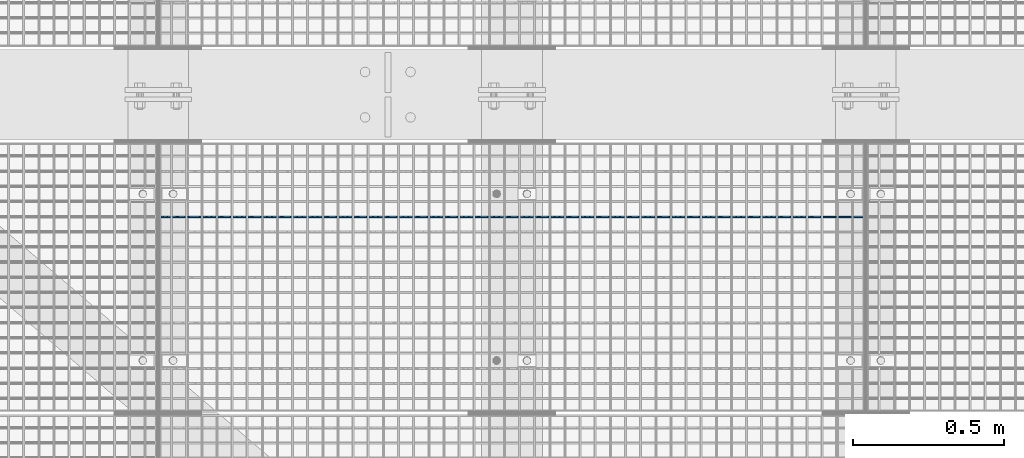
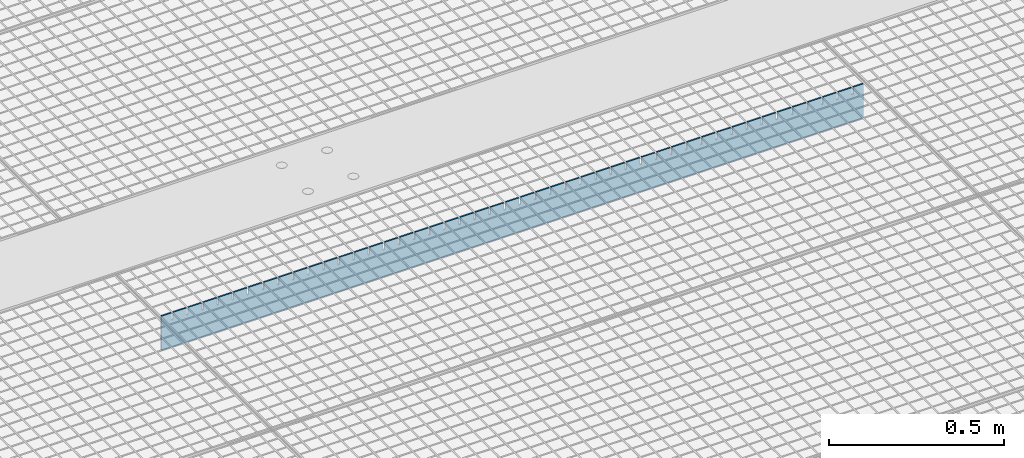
# One storey, part 239 of 1530: 1 beam.
"""IFC2X3 building model written with IfcOpenShell, lengths in millimetres."""

from ifc_helpers import new_model, si_unit, frame, origin_with_axes, place, context, subcontext, project, spatial, faceted_brep, material, type_object, element, save


model = new_model("IFC2X3")

# Units and contexts
model_context = context("Model", 3, precision=1e-05, world=origin_with_axes())
body_context = subcontext(model_context, "Body", "Model", "MODEL_VIEW")
ifc_project = project(units=[si_unit("LENGTHUNIT", "METRE", prefix="MILLI"), si_unit("AREAUNIT", "SQUARE_METRE"), si_unit("VOLUMEUNIT", "CUBIC_METRE"), si_unit("MASSUNIT", "GRAM", prefix="KILO"), si_unit("TIMEUNIT", "SECOND"), si_unit("PLANEANGLEUNIT", "RADIAN"), si_unit("SOLIDANGLEUNIT", "STERADIAN"), si_unit("THERMODYNAMICTEMPERATUREUNIT", "DEGREE_CELSIUS"), si_unit("LUMINOUSINTENSITYUNIT", "LUMEN")], contexts=[model_context])

# Site, building, storey
site_placement = place(None, origin_with_axes())
site = spatial("IfcSite", under=ifc_project, at=site_placement, Name="Brattvåg", CompositionType="ELEMENT")
building_placement = place(site_placement, origin_with_axes())
building = spatial("IfcBuilding", under=site, at=building_placement, Name="Undefined", CompositionType="ELEMENT")
storey_placement = place(building_placement, origin_with_axes())
storey = spatial("IfcBuildingStorey", under=building, at=storey_placement, Name="Undefined", CompositionType="ELEMENT", Elevation=0.0)

# Beam
ifc_material = material(Name="STEEL/S355J2")
beam_type = type_object("IfcBeamType", Name="120*5", PredefinedType="NOTDEFINED")
beam_placement = place(storey_placement, frame((7570.01317977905, 2596.9952545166, -59.9998626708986), z_axis=(0.0, 0.0, 1.0), x_axis=(-1.0, 1.99999855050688e-09, 0.0)))
element("IfcBeam", 1, at=beam_placement, inside=storey, type_object=beam_type, material=ifc_material, Name="GRATING", context=body_context, shape_type="Brep", body=[
    faceted_brep([(83.5790367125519, -2.50000000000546, 60.0000722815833), (83.5790367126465, -2.50000000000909, 35.0001373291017), (83.5790367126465, 2.50022888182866, 35.0001373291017), (83.5790367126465, 2.5, 60.0), (88.5790367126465, -2.50000000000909, 35.0001373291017), (88.5790367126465, 2.50022888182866, 35.0001373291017), (88.5790367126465, -2.50000000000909, 60.0001373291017), (88.5790367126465, 2.5, 60.0), (38.6284370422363, -2.50000000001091, 60.0001373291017), (38.6284370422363, 2.5, 60.0), (38.6284370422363, 2.49999999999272, 35.0001373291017), (38.6284370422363, -2.50000000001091, 35.0001373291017), (33.6284370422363, 2.49999999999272, 35.0001373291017), (33.6284370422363, -2.50000000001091, 35.0001373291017), (33.6284370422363, -2.5, 60.0), (33.6284370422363, 2.5, 60.0), (0.0, 2.5, 60.0), (0.0, -2.5, 60.0), (0.0, -2.5, -60.0), (0.0, 2.5, -60.0), (2319.99865722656, 2.5, -60.0), (2319.99865722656, -2.5, -60.0), (2319.99865722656, -2.5, 60.0), (2319.99865722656, 2.5, 60.0), (2286.37871932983, 2.5, 60.0), (2286.37871932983, -2.50000000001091, 60.0001373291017), (2286.37871932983, 2.49999999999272, 35.0001373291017), (2286.37871932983, -2.50000000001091, 35.0001373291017), (2281.37871932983, 2.49999999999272, 35.0001373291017), (2281.37871932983, -2.50000000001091, 35.0001373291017), (2281.37871932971, -2.50000000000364, 60.0000634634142), (2281.37871932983, 2.5, 60.0), (2236.42859649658, 2.5, 60.0), (2236.42859649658, -2.50000000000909, 60.0001373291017), (2236.42859649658, 2.50022888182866, 35.0001373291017), (2236.42859649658, -2.50000000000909, 35.0001373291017), (2231.42859649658, 2.50022888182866, 35.0001373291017), (2231.42859649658, -2.50000000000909, 35.0001373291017), (2231.42859649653, -2.50000000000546, 60.0000910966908), (2231.42859649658, 2.5, 60.0), (2186.47847366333, 2.5, 60.0), (2186.47847366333, -2.50000000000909, 60.0001373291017), (2186.47847366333, 2.50022888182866, 35.0001373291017), (2186.47847366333, -2.50000000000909, 35.0001373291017), (2181.47847366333, 2.50022888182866, 35.0001373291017), (2181.47847366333, -2.50000000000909, 35.0001373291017), (2181.47847366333, -2.5, 60.0), (2181.47847366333, 2.5, 60.0), (2136.52882766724, 2.5, 60.0), (2136.52882766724, -2.50000000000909, 60.0001373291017), (2136.52882766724, 2.50022888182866, 35.0001373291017), (2136.52882766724, -2.50000000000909, 35.0001373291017), (2131.52882766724, 2.50022888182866, 35.0001373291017), (2131.52882766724, -2.50000000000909, 35.0001373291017), (2131.52882766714, -2.50000000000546, 60.0000722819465), (2131.52882766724, 2.5, 60.0), (2086.57870483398, 2.5, 60.0), (2086.57870483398, -2.50000000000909, 60.0001373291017), (2086.57870483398, 2.50022888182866, 35.0001373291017), (2086.57870483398, -2.50000000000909, 35.0001373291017), (2081.57870483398, 2.50022888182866, 35.0001373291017), (2081.57870483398, -2.50000000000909, 35.0001373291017), (2081.57870483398, -2.5, 60.0), (2081.57870483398, 2.5, 60.0), (2036.62858200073, 2.5, 60.0), (2036.62858200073, -2.50000000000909, 60.0001373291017), (2036.62858200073, 2.50022888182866, 35.0001373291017), (2036.62858200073, -2.50000000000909, 35.0001373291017), (2031.62858200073, 2.50022888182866, 35.0001373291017), (2031.62858200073, -2.50000000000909, 35.0001373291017), (2031.62858200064, -2.50000000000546, 60.0000722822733), (2031.62858200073, 2.5, 60.0), (1986.67845916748, 2.5, 60.0), (1986.67845916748, -2.50000000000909, 60.0001373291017), (1986.67845916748, 2.50022888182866, 35.0001373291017), (1986.67845916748, -2.50000000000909, 35.0001373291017), (1981.67845916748, 2.50022888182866, 35.0001373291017), (1981.67845916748, -2.50000000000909, 35.0001373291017), (1981.67845916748, -2.5, 60.0), (1981.67845916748, 2.5, 60.0), (1936.72881317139, 2.5, 60.0), (1936.72881317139, -2.50000000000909, 60.0001373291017), (1936.72881317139, 2.50022888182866, 35.0001373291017), (1936.72881317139, -2.50000000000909, 35.0001373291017), (1931.72881317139, 2.50022888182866, 35.0001373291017), (1931.72881317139, -2.50000000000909, 35.0001373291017), (1931.72881317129, -2.50000000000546, 60.0000722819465), (1931.72881317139, 2.5, 60.0), (1886.77869033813, 2.5, 60.0), (1886.77869033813, -2.50000000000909, 60.0001373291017), (1886.77869033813, 2.50022888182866, 35.0001373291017), (1886.77869033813, -2.50000000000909, 35.0001373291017), (1881.77869033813, 2.50022888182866, 35.0001373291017), (1881.77869033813, -2.50000000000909, 35.0001373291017), (1881.77869033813, -2.5, 60.0), (1881.77869033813, 2.5, 60.0), (1836.82856750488, 2.5, 60.0), (1836.82856750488, -2.50000000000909, 60.0001373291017), (1836.82856750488, 2.50022888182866, 35.0001373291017), (1836.82856750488, -2.50000000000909, 35.0001373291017), (1831.82856750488, 2.50022888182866, 35.0001373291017), (1831.82856750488, -2.50000000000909, 35.0001373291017), (1831.82856750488, -2.5, 60.0), (1831.82856750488, 2.5, 60.0), (1786.87892150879, 2.5, 60.0), (1786.87892150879, -2.50000000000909, 60.0001373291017), (1786.87892150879, 2.50022888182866, 35.0001373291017), (1786.87892150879, -2.50000000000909, 35.0001373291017), (1781.87892150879, 2.50022888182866, 35.0001373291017), (1781.87892150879, -2.50000000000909, 35.0001373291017), (1781.87892150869, -2.50000000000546, 60.0000722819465), (1781.87892150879, 2.5, 60.0), (1736.92879867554, 2.5, 60.0), (1736.92879867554, -2.50000000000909, 60.0001373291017), (1736.92879867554, 2.50022888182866, 35.0001373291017), (1736.92879867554, -2.50000000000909, 35.0001373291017), (1731.92879867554, 2.50022888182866, 35.0001373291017), (1731.92879867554, -2.50000000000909, 35.0001373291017), (1731.92879867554, -2.5, 60.0), (1731.92879867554, 2.5, 60.0), (1686.97867584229, 2.5, 60.0), (1686.97867584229, -2.50000000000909, 60.0001373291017), (1686.97867584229, 2.50022888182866, 35.0001373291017), (1686.97867584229, -2.50000000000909, 35.0001373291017), (1681.97867584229, 2.50022888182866, 35.0001373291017), (1681.97867584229, -2.50000000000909, 35.0001373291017), (1681.97867584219, -2.50000000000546, 60.0000722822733), (1681.97867584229, 2.5, 60.0), (1637.02855300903, 2.5, 60.0), (1637.02855300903, -2.50000000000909, 60.0001373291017), (1637.02855300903, 2.50022888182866, 35.0001373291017), (1637.02855300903, -2.50000000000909, 35.0001373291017), (1632.02855300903, 2.50022888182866, 35.0001373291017), (1632.02855300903, -2.50000000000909, 35.0001373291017), (1632.02855300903, -2.5, 60.0), (1632.02855300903, 2.5, 60.0), (1587.07890701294, 2.5, 60.0), (1587.07890701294, -2.50000000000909, 60.0001373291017), (1587.07890701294, 2.50022888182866, 35.0001373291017), (1587.07890701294, -2.50000000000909, 35.0001373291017), (1582.07890701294, 2.50022888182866, 35.0001373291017), (1582.07890701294, -2.50000000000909, 35.0001373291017), (1582.07890701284, -2.50000000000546, 60.0000722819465), (1582.07890701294, 2.5, 60.0), (1537.12878417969, 2.5, 60.0), (1537.12878417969, -2.50000000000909, 60.0001373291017), (1537.12878417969, 2.50022888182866, 35.0001373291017), (1537.12878417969, -2.50000000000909, 35.0001373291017), (1532.12878417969, 2.50022888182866, 35.0001373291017), (1532.12878417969, -2.50000000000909, 35.0001373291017), (1532.12878417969, -2.5, 60.0), (1532.12878417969, 2.5, 60.0), (1487.17866134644, 2.5, 60.0), (1487.17866134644, -2.50000000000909, 60.0001373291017), (1487.17866134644, 2.50022888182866, 35.0001373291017), (1487.17866134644, -2.50000000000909, 35.0001373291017), (1482.17866134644, 2.50022888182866, 35.0001373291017), (1482.17866134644, -2.50000000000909, 35.0001373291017), (1482.17866134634, -2.50000000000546, 60.0000722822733), (1482.17866134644, 2.5, 60.0), (1437.22853851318, 2.5, 60.0), (1437.22853851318, -2.50000000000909, 60.0001373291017), (1437.22853851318, 2.50022888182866, 35.0001373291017), (1437.22853851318, -2.50000000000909, 35.0001373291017), (1432.22853851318, 2.50022888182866, 35.0001373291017), (1432.22853851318, -2.50000000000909, 35.0001373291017), (1432.22853851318, -2.5, 60.0), (1432.22853851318, 2.5, 60.0), (1387.27889251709, 2.5, 60.0), (1387.27889251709, -2.50000000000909, 60.0001373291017), (1387.27889251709, 2.50022888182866, 35.0001373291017), (1387.27889251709, -2.50000000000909, 35.0001373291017), (1382.27889251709, 2.50022888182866, 35.0001373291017), (1382.27889251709, -2.50000000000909, 35.0001373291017), (1382.278892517, -2.50000000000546, 60.0000722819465), (1382.27889251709, 2.5, 60.0), (1337.32876968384, 2.5, 60.0), (1337.32876968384, -2.50000000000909, 60.0001373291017), (1337.32876968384, 2.50022888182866, 35.0001373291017), (1337.32876968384, -2.50000000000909, 35.0001373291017), (1332.32876968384, 2.50022888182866, 35.0001373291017), (1332.32876968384, -2.50000000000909, 35.0001373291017), (1332.32876968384, -2.5, 60.0), (1332.32876968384, 2.5, 60.0), (1287.37864685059, 2.5, 60.0), (1287.37864685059, -2.50000000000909, 60.0001373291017), (1287.37864685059, 2.50022888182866, 35.0001373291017), (1287.37864685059, -2.50000000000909, 35.0001373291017), (1282.37864685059, 2.50022888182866, 35.0001373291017), (1282.37864685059, -2.50000000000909, 35.0001373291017), (1282.37864685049, -2.50000000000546, 60.0000722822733), (1282.37864685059, 2.5, 60.0), (1237.42852401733, 2.5, 60.0), (1237.42852401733, -2.50000000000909, 60.0001373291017), (1237.42852401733, 2.50022888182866, 35.0001373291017), (1237.42852401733, -2.50000000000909, 35.0001373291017), (1232.42852401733, 2.50022888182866, 35.0001373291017), (1232.42852401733, -2.50000000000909, 35.0001373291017), (1232.42852401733, -2.5, 60.0), (1232.42852401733, 2.5, 60.0), (1187.47887802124, 2.5, 60.0), (1187.47887802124, -2.50000000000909, 60.0001373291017), (1187.47887802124, 2.50022888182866, 35.0001373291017), (1187.47887802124, -2.50000000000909, 35.0001373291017), (1182.47887802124, 2.50022888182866, 35.0001373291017), (1182.47887802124, -2.50000000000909, 35.0001373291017), (1182.47887802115, -2.50000000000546, 60.0000722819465), (1182.47887802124, 2.5, 60.0), (1137.52875518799, 2.5, 60.0), (1137.52875518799, -2.50000000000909, 60.0001373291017), (1137.52875518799, 2.50022888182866, 35.0001373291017), (1137.52875518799, -2.50000000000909, 35.0001373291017), (1132.52875518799, 2.50022888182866, 35.0001373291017), (1132.52875518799, -2.50000000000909, 35.0001373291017), (1132.52875518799, -2.5, 60.0), (1132.52875518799, 2.5, 60.0), (1087.57863235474, 2.5, 60.0), (1087.57863235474, -2.50000000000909, 60.0001373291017), (1087.57863235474, 2.50022888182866, 35.0001373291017), (1087.57863235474, -2.50000000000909, 35.0001373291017), (1082.57863235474, 2.50022888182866, 35.0001373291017), (1082.57863235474, -2.50000000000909, 35.0001373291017), (1082.57863235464, -2.50000000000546, 60.0000722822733), (1082.57863235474, 2.5, 60.0), (1037.62850952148, 2.5, 60.0), (1037.62850952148, -2.50000000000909, 60.0001373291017), (1037.62850952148, 2.50022888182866, 35.0001373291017), (1037.62850952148, -2.50000000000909, 35.0001373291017), (1032.62850952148, 2.50022888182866, 35.0001373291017), (1032.62850952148, -2.50000000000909, 35.0001373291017), (1032.62850952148, -2.5, 60.0), (1032.62850952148, 2.5, 60.0), (987.678863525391, 2.5, 60.0), (987.678863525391, -2.50000000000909, 60.0001373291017), (987.678863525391, 2.50022888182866, 35.0001373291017), (987.678863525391, -2.50000000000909, 35.0001373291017), (982.678863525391, 2.50022888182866, 35.0001373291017), (982.678863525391, -2.50000000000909, 35.0001373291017), (982.678863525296, -2.50000000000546, 60.0000722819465), (982.678863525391, 2.5, 60.0), (937.728740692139, 2.5, 60.0), (937.728740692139, -2.50000000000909, 60.0001373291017), (937.728740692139, 2.50022888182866, 35.0001373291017), (937.728740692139, -2.50000000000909, 35.0001373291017), (932.728740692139, 2.50022888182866, 35.0001373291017), (932.728740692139, -2.50000000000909, 35.0001373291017), (932.728740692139, -2.5, 60.0), (932.728740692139, 2.5, 60.0), (887.778617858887, 2.5, 60.0), (887.778617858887, -2.50000000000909, 60.0001373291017), (887.778617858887, 2.50022888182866, 35.0001373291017), (887.778617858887, -2.50000000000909, 35.0001373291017), (882.778617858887, 2.50022888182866, 35.0001373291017), (882.778617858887, -2.50000000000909, 35.0001373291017), (882.778617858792, -2.50000000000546, 60.0000722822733), (882.778617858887, 2.5, 60.0), (837.828495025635, 2.5, 60.0), (837.828495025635, -2.50000000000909, 60.0001373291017), (837.828495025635, 2.50022888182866, 35.0001373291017), (837.828495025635, -2.50000000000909, 35.0001373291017), (832.828495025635, 2.50022888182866, 35.0001373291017), (832.828495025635, -2.50000000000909, 35.0001373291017), (832.828495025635, -2.5, 60.0), (832.828495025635, 2.5, 60.0), (787.878849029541, 2.5, 60.0), (787.878849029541, -2.50000000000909, 60.0001373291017), (787.878849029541, 2.50022888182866, 35.0001373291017), (787.878849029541, -2.50000000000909, 35.0001373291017), (782.878849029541, 2.50022888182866, 35.0001373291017), (782.878849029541, -2.50000000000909, 35.0001373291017), (782.878849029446, -2.50000000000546, 60.0000722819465), (782.878849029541, 2.5, 60.0), (737.928726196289, 2.5, 60.0), (737.928726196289, -2.50000000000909, 60.0001373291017), (737.928726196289, 2.50022888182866, 35.0001373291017), (737.928726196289, -2.50000000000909, 35.0001373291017), (732.928726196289, 2.50022888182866, 35.0001373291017), (732.928726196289, -2.50000000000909, 35.0001373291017), (732.928726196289, -2.5, 60.0), (732.928726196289, 2.5, 60.0), (687.978603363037, 2.5, 60.0), (687.978603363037, -2.50000000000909, 60.0001373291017), (687.978603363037, 2.50022888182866, 35.0001373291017), (687.978603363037, -2.50000000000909, 35.0001373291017), (682.978603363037, 2.50022888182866, 35.0001373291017), (682.978603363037, -2.50000000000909, 35.0001373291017), (682.978603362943, -2.50000000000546, 60.0000722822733), (682.978603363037, 2.5, 60.0), (638.028480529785, 2.5, 60.0), (638.028480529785, -2.50000000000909, 60.0001373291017), (638.028480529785, 2.50022888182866, 35.0001373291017), (638.028480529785, -2.50000000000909, 35.0001373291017), (633.028480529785, 2.50022888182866, 35.0001373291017), (633.028480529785, -2.50000000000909, 35.0001373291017), (633.028480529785, -2.5, 60.0), (633.028480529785, 2.5, 60.0), (588.078834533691, 2.5, 60.0), (588.078834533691, -2.50000000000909, 60.0001373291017), (588.078834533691, 2.50022888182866, 35.0001373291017), (588.078834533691, -2.50000000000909, 35.0001373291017), (583.078834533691, 2.50022888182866, 35.0001373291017), (583.078834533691, -2.50000000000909, 35.0001373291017), (583.078834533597, -2.50000000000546, 60.0000722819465), (583.078834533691, 2.5, 60.0), (538.128711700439, 2.5, 60.0), (538.128711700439, -2.50000000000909, 60.0001373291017), (538.128711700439, 2.50022888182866, 35.0001373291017), (538.128711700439, -2.50000000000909, 35.0001373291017), (533.128711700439, 2.50022888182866, 35.0001373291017), (533.128711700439, -2.50000000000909, 35.0001373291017), (533.128711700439, -2.5, 60.0), (533.128711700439, 2.5, 60.0), (488.178588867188, 2.5, 60.0), (488.178588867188, -2.50000000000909, 60.0001373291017), (488.178588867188, 2.50022888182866, 35.0001373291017), (488.178588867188, -2.50000000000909, 35.0001373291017), (483.178588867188, 2.50022888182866, 35.0001373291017), (483.178588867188, -2.50000000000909, 35.0001373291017), (483.178588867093, -2.50000000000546, 60.0000722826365), (483.178588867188, 2.5, 60.0), (438.228942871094, 2.5, 60.0), (438.228942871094, -2.50000000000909, 60.0001373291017), (438.228942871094, 2.50022888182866, 35.0001373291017), (438.228942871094, -2.50000000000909, 35.0001373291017), (433.228942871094, 2.50022888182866, 35.0001373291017), (433.228942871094, -2.50000000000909, 35.0001373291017), (433.228942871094, -2.5, 60.0), (433.228942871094, 2.5, 60.0), (388.278820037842, 2.5, 60.0), (388.278820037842, -2.50000000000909, 60.0001373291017), (388.278820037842, 2.50022888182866, 35.0001373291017), (388.278820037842, -2.50000000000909, 35.0001373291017), (383.278820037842, 2.50022888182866, 35.0001373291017), (383.278820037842, -2.50000000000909, 35.0001373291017), (383.278820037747, -2.50000000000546, 60.0000722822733), (383.278820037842, 2.5, 60.0), (338.32869720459, 2.5, 60.0), (338.32869720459, -2.50000000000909, 60.0001373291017), (338.32869720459, 2.50022888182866, 35.0001373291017), (338.32869720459, -2.50000000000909, 35.0001373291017), (333.32869720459, 2.50022888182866, 35.0001373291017), (333.32869720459, -2.50000000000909, 35.0001373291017), (333.32869720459, -2.5, 60.0), (333.32869720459, 2.5, 60.0), (288.378574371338, 2.5, 60.0), (288.378574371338, -2.50000000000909, 60.0001373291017), (288.378574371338, 2.50022888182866, 35.0001373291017), (288.378574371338, -2.50000000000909, 35.0001373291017), (283.378574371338, 2.50022888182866, 35.0001373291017), (283.378574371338, -2.50000000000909, 35.0001373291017), (283.378574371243, -2.50000000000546, 60.0000722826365), (283.378574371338, 2.5, 60.0), (238.428928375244, 2.5, 60.0), (238.428928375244, -2.50000000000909, 60.0001373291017), (238.428928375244, 2.50022888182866, 35.0001373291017), (238.428928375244, -2.50000000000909, 35.0001373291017), (233.428928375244, 2.50022888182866, 35.0001373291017), (233.428928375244, -2.50000000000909, 35.0001373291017), (233.428928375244, -2.5, 60.0), (233.428928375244, 2.5, 60.0), (188.478328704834, 2.5, 60.0), (188.478328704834, -2.50000000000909, 60.0001373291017), (188.478328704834, 2.50022888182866, 35.0001373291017), (188.478328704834, -2.50000000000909, 35.0001373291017), (183.478328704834, 2.50022888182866, 35.0001373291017), (183.478328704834, -2.50000000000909, 35.0001373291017), (183.478328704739, -2.50000000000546, 60.0000722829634), (183.478328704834, 2.5, 60.0), (138.52868270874, 2.5, 60.0), (138.52868270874, -2.50000000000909, 60.0001373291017), (138.52868270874, 2.50022888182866, 35.0001373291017), (138.52868270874, -2.50000000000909, 35.0001373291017), (133.52868270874, 2.50022888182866, 35.0001373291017), (133.52868270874, -2.50000000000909, 35.0001373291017), (133.52868270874, -2.5, 60.0), (133.52868270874, 2.5, 60.0)], [[[0, 1, 2, 3]], [[4, 5, 2, 1]], [[6, 7, 5, 4]], [[8, 9, 10, 11]], [[11, 10, 12, 13]], [[14, 13, 12, 15]], [[16, 17, 14, 15]], [[18, 17, 16, 19]], [[18, 19, 20, 21]], [[22, 21, 20, 23]], [[22, 23, 24, 25]], [[25, 24, 26, 27]], [[27, 26, 28, 29]], [[30, 29, 28, 31]], [[32, 33, 30, 31]], [[33, 32, 34, 35]], [[35, 34, 36, 37]], [[38, 37, 36, 39]], [[40, 41, 38, 39]], [[41, 40, 42, 43]], [[43, 42, 44, 45]], [[46, 45, 44, 47]], [[46, 47, 48, 49]], [[49, 48, 50, 51]], [[51, 50, 52, 53]], [[54, 53, 52, 55]], [[56, 57, 54, 55]], [[57, 56, 58, 59]], [[59, 58, 60, 61]], [[62, 61, 60, 63]], [[62, 63, 64, 65]], [[65, 64, 66, 67]], [[67, 66, 68, 69]], [[70, 69, 68, 71]], [[72, 73, 70, 71]], [[73, 72, 74, 75]], [[75, 74, 76, 77]], [[78, 77, 76, 79]], [[78, 79, 80, 81]], [[81, 80, 82, 83]], [[83, 82, 84, 85]], [[86, 85, 84, 87]], [[88, 89, 86, 87]], [[89, 88, 90, 91]], [[91, 90, 92, 93]], [[94, 93, 92, 95]], [[94, 95, 96, 97]], [[97, 96, 98, 99]], [[99, 98, 100, 101]], [[102, 101, 100, 103]], [[102, 103, 104, 105]], [[105, 104, 106, 107]], [[107, 106, 108, 109]], [[110, 109, 108, 111]], [[112, 113, 110, 111]], [[113, 112, 114, 115]], [[115, 114, 116, 117]], [[118, 117, 116, 119]], [[118, 119, 120, 121]], [[121, 120, 122, 123]], [[123, 122, 124, 125]], [[126, 125, 124, 127]], [[128, 129, 126, 127]], [[129, 128, 130, 131]], [[131, 130, 132, 133]], [[134, 133, 132, 135]], [[134, 135, 136, 137]], [[137, 136, 138, 139]], [[139, 138, 140, 141]], [[142, 141, 140, 143]], [[144, 145, 142, 143]], [[145, 144, 146, 147]], [[147, 146, 148, 149]], [[150, 149, 148, 151]], [[150, 151, 152, 153]], [[153, 152, 154, 155]], [[155, 154, 156, 157]], [[158, 157, 156, 159]], [[160, 161, 158, 159]], [[161, 160, 162, 163]], [[163, 162, 164, 165]], [[166, 165, 164, 167]], [[166, 167, 168, 169]], [[169, 168, 170, 171]], [[171, 170, 172, 173]], [[174, 173, 172, 175]], [[176, 177, 174, 175]], [[177, 176, 178, 179]], [[179, 178, 180, 181]], [[182, 181, 180, 183]], [[182, 183, 184, 185]], [[185, 184, 186, 187]], [[187, 186, 188, 189]], [[190, 189, 188, 191]], [[192, 193, 190, 191]], [[193, 192, 194, 195]], [[195, 194, 196, 197]], [[198, 197, 196, 199]], [[198, 199, 200, 201]], [[201, 200, 202, 203]], [[203, 202, 204, 205]], [[206, 205, 204, 207]], [[208, 209, 206, 207]], [[209, 208, 210, 211]], [[211, 210, 212, 213]], [[214, 213, 212, 215]], [[214, 215, 216, 217]], [[217, 216, 218, 219]], [[219, 218, 220, 221]], [[222, 221, 220, 223]], [[224, 225, 222, 223]], [[225, 224, 226, 227]], [[227, 226, 228, 229]], [[230, 229, 228, 231]], [[230, 231, 232, 233]], [[233, 232, 234, 235]], [[235, 234, 236, 237]], [[238, 237, 236, 239]], [[240, 241, 238, 239]], [[241, 240, 242, 243]], [[243, 242, 244, 245]], [[246, 245, 244, 247]], [[246, 247, 248, 249]], [[249, 248, 250, 251]], [[251, 250, 252, 253]], [[254, 253, 252, 255]], [[256, 257, 254, 255]], [[257, 256, 258, 259]], [[259, 258, 260, 261]], [[262, 261, 260, 263]], [[262, 263, 264, 265]], [[265, 264, 266, 267]], [[267, 266, 268, 269]], [[270, 269, 268, 271]], [[272, 273, 270, 271]], [[273, 272, 274, 275]], [[275, 274, 276, 277]], [[278, 277, 276, 279]], [[278, 279, 280, 281]], [[281, 280, 282, 283]], [[283, 282, 284, 285]], [[286, 285, 284, 287]], [[288, 289, 286, 287]], [[289, 288, 290, 291]], [[291, 290, 292, 293]], [[294, 293, 292, 295]], [[294, 295, 296, 297]], [[297, 296, 298, 299]], [[299, 298, 300, 301]], [[302, 301, 300, 303]], [[304, 305, 302, 303]], [[305, 304, 306, 307]], [[307, 306, 308, 309]], [[310, 309, 308, 311]], [[310, 311, 312, 313]], [[313, 312, 314, 315]], [[315, 314, 316, 317]], [[318, 317, 316, 319]], [[320, 321, 318, 319]], [[321, 320, 322, 323]], [[323, 322, 324, 325]], [[326, 325, 324, 327]], [[326, 327, 328, 329]], [[329, 328, 330, 331]], [[331, 330, 332, 333]], [[334, 333, 332, 335]], [[336, 337, 334, 335]], [[337, 336, 338, 339]], [[339, 338, 340, 341]], [[342, 341, 340, 343]], [[342, 343, 344, 345]], [[345, 344, 346, 347]], [[347, 346, 348, 349]], [[350, 349, 348, 351]], [[352, 353, 350, 351]], [[353, 352, 354, 355]], [[355, 354, 356, 357]], [[358, 357, 356, 359]], [[358, 359, 360, 361]], [[361, 360, 362, 363]], [[363, 362, 364, 365]], [[366, 365, 364, 367]], [[368, 369, 366, 367]], [[369, 368, 370, 371]], [[371, 370, 372, 373]], [[374, 373, 372, 375]], [[1, 0, 8, 11, 13, 14, 17, 18, 21, 22, 25, 27, 29, 30, 33, 35, 37, 38, 41, 43, 45, 46, 49, 51, 53, 54, 57, 59, 61, 62, 65, 67, 69, 70, 73, 75, 77, 78, 81, 83, 85, 86, 89, 91, 93, 94, 97, 99, 101, 102, 105, 107, 109, 110, 113, 115, 117, 118, 121, 123, 125, 126, 129, 131, 133, 134, 137, 139, 141, 142, 145, 147, 149, 150, 153, 155, 157, 158, 161, 163, 165, 166, 169, 171, 173, 174, 177, 179, 181, 182, 185, 187, 189, 190, 193, 195, 197, 198, 201, 203, 205, 206, 209, 211, 213, 214, 217, 219, 221, 222, 225, 227, 229, 230, 233, 235, 237, 238, 241, 243, 245, 246, 249, 251, 253, 254, 257, 259, 261, 262, 265, 267, 269, 270, 273, 275, 277, 278, 281, 283, 285, 286, 289, 291, 293, 294, 297, 299, 301, 302, 305, 307, 309, 310, 313, 315, 317, 318, 321, 323, 325, 326, 329, 331, 333, 334, 337, 339, 341, 342, 345, 347, 349, 350, 353, 355, 357, 358, 361, 363, 365, 366, 369, 371, 373, 374, 6, 4]], [[9, 8, 0, 3]], [[375, 372, 370, 368, 367, 364, 362, 360, 359, 356, 354, 352, 351, 348, 346, 344, 343, 340, 338, 336, 335, 332, 330, 328, 327, 324, 322, 320, 319, 316, 314, 312, 311, 308, 306, 304, 303, 300, 298, 296, 295, 292, 290, 288, 287, 284, 282, 280, 279, 276, 274, 272, 271, 268, 266, 264, 263, 260, 258, 256, 255, 252, 250, 248, 247, 244, 242, 240, 239, 236, 234, 232, 231, 228, 226, 224, 223, 220, 218, 216, 215, 212, 210, 208, 207, 204, 202, 200, 199, 196, 194, 192, 191, 188, 186, 184, 183, 180, 178, 176, 175, 172, 170, 168, 167, 164, 162, 160, 159, 156, 154, 152, 151, 148, 146, 144, 143, 140, 138, 136, 135, 132, 130, 128, 127, 124, 122, 120, 119, 116, 114, 112, 111, 108, 106, 104, 103, 100, 98, 96, 95, 92, 90, 88, 87, 84, 82, 80, 79, 76, 74, 72, 71, 68, 66, 64, 63, 60, 58, 56, 55, 52, 50, 48, 47, 44, 42, 40, 39, 36, 34, 32, 31, 28, 26, 24, 23, 20, 19, 16, 15, 12, 10, 9, 3, 2, 5, 7]], [[374, 375, 7, 6]]]),
])

save(model, "model.ifc")
